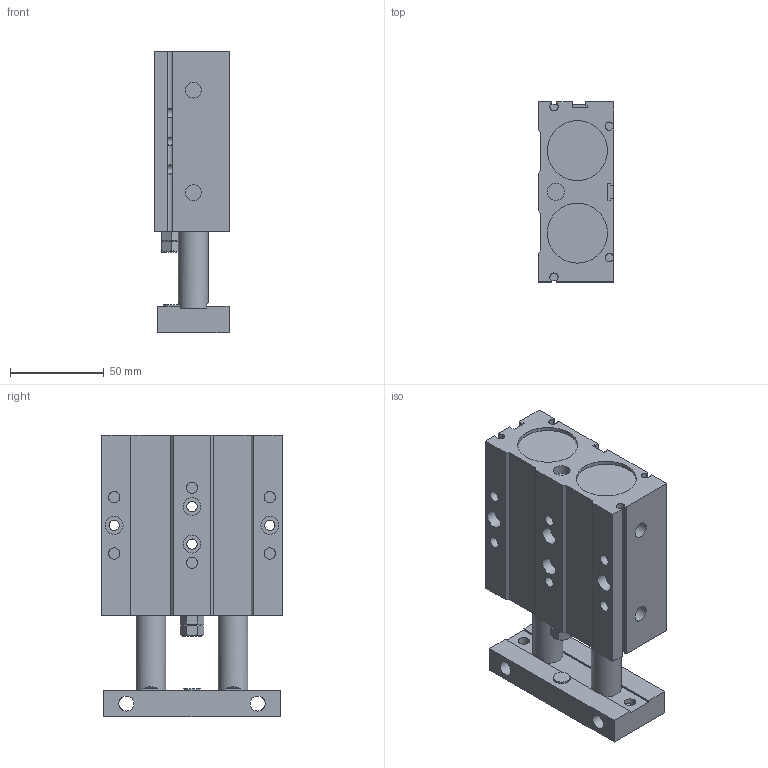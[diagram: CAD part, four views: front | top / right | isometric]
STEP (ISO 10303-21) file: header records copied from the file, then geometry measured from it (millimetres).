
FILE_DESCRIPTION((''),'2;1');
FILE_NAME('I:\3D電子目錄\氣缸\TD\TD32\TD32\TD32x30.stp','2007-08-06T10:18:07',('Administrator'),(''),'Autodesk Inventor 2008','Autodesk Inventor 2008','');
FILE_SCHEMA(('AUTOMOTIVE_DESIGN { 1 0 10303 214 1 1 1 1 }'));
Length unit declared in the file: millimetre
Products named in the file (1): TD32X30
Bounding box: 40.5 x 96 x 150 mm (x, y, z)
Volume: 400413.7 mm3; surface area: 63459.1 mm2
Topology: 1 solids, 3 shells, 186 faces, 458 edges, 304 vertices
Faces by surface type: plane 131, cylinder 42, cone 7, bspline 4, torus 2
Full cylindrical faces by diameter (mm): 5.5 x4, 6 x8, 8 x2, 8.5 x2, 9 x2, 9.5 x8, 12 x2, 13 x2, 14 x2, 16 x2, 32 x4
Entity records: 6063 total; most frequent: CARTESIAN_POINT 1776, DIRECTION 851, ORIENTED_EDGE 802, EDGE_CURVE 401, EDGE_LOOP 297, AXIS2_PLACEMENT_3D 295, VERTEX_POINT 294, VECTOR 261
